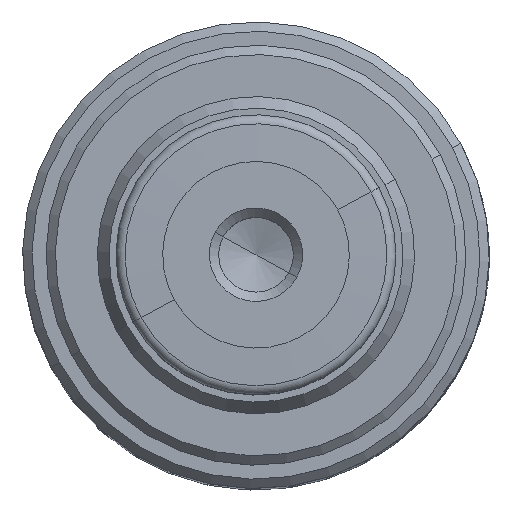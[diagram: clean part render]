
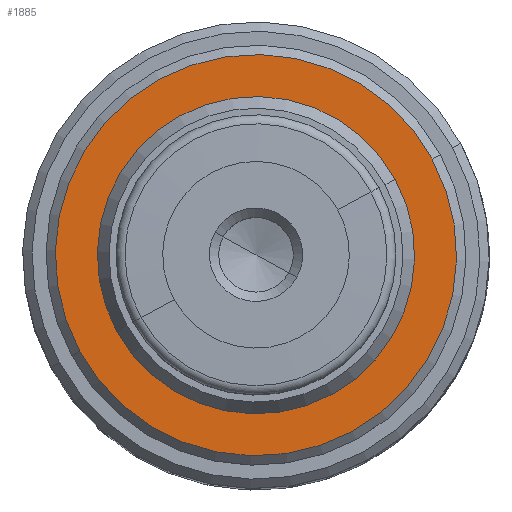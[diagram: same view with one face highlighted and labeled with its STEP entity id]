
A CAD part, top view. The second image highlights one B-rep face of the part: STEP entity #1885.
In plain terms, the highlighted planar face has unit normal (0, 0, 1).
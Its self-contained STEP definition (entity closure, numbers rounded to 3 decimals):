
#1719=CARTESIAN_POINT('Vertex',(14.919,8.15,97.3)) ;
#1722=CARTESIAN_POINT('Axis2P3D Location',(0.,0.,97.3)) ;
#1726=CARTESIAN_POINT('Vertex',(-14.919,-8.15,97.3)) ;
#1746=CARTESIAN_POINT('Axis2P3D Location',(0.,0.,97.3)) ;
#1763=CARTESIAN_POINT('Axis2P3D Location',(0.,0.,97.3)) ;
#1767=CARTESIAN_POINT('Vertex',(18.868,10.308,97.3)) ;
#1769=CARTESIAN_POINT('Vertex',(-18.868,-10.308,97.3)) ;
#1798=CARTESIAN_POINT('Axis2P3D Location',(0.,0.,97.3)) ;
#1872=CARTESIAN_POINT('Axis2P3D Location',(17.,0.,97.3)) ;
#1723=DIRECTION('Axis2P3D Direction',(0.,0.,-1.)) ;
#1747=DIRECTION('Axis2P3D Direction',(0.,0.,-1.)) ;
#1764=DIRECTION('Axis2P3D Direction',(0.,0.,-1.)) ;
#1799=DIRECTION('Axis2P3D Direction',(0.,0.,-1.)) ;
#1873=DIRECTION('Axis2P3D Direction',(0.,0.,1.)) ;
#1874=DIRECTION('Axis2P3D XDirection',(1.,0.,0.)) ;
#1724=AXIS2_PLACEMENT_3D('Circle Axis2P3D',#1722,#1723,$) ;
#1748=AXIS2_PLACEMENT_3D('Circle Axis2P3D',#1746,#1747,$) ;
#1765=AXIS2_PLACEMENT_3D('Circle Axis2P3D',#1763,#1764,$) ;
#1800=AXIS2_PLACEMENT_3D('Circle Axis2P3D',#1798,#1799,$) ;
#1875=AXIS2_PLACEMENT_3D('Plane Axis2P3D',#1872,#1873,#1874) ;
#1878=ORIENTED_EDGE('',*,*,#1802,.T.) ;
#1879=ORIENTED_EDGE('',*,*,#1771,.T.) ;
#1882=ORIENTED_EDGE('',*,*,#1728,.F.) ;
#1883=ORIENTED_EDGE('',*,*,#1750,.F.) ;
#1884=FACE_BOUND('',#1881,.T.) ;
#1885=ADVANCED_FACE('',(#1880,#1884),#1876,.T.) ;
#1725=CIRCLE('generated circle',#1724,17.) ;
#1749=CIRCLE('generated circle',#1748,17.) ;
#1766=CIRCLE('generated circle',#1765,21.5) ;
#1801=CIRCLE('generated circle',#1800,21.5) ;
#1728=EDGE_CURVE('',#1720,#1727,#1725,.F.) ;
#1750=EDGE_CURVE('',#1727,#1720,#1749,.F.) ;
#1771=EDGE_CURVE('',#1768,#1770,#1766,.F.) ;
#1802=EDGE_CURVE('',#1770,#1768,#1801,.F.) ;
#1877=EDGE_LOOP('',(#1878,#1879)) ;
#1881=EDGE_LOOP('',(#1882,#1883)) ;
#1880=FACE_OUTER_BOUND('',#1877,.T.) ;
#1876=PLANE('Plane',#1875) ;
#1720=VERTEX_POINT('',#1719) ;
#1727=VERTEX_POINT('',#1726) ;
#1768=VERTEX_POINT('',#1767) ;
#1770=VERTEX_POINT('',#1769) ;
